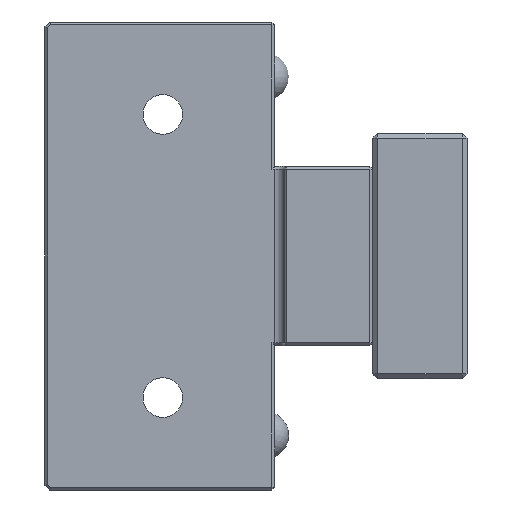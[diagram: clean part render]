
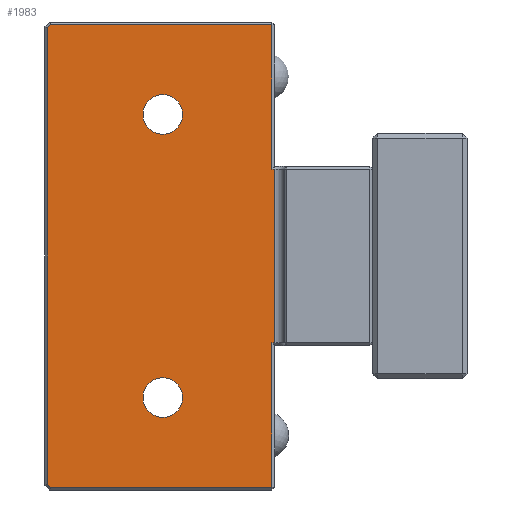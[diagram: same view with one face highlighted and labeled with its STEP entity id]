
A CAD part, left-side view. The second image highlights one B-rep face of the part: STEP entity #1983.
In plain terms, the highlighted planar face has unit normal (-1, 0, 0) as drawn and (0, 1, 0) by its records, which use the part's own axes.
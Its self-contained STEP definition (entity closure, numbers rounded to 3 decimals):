
#28 = VECTOR ( 'NONE', #1734, 1000. ) ;
#34 = ORIENTED_EDGE ( 'NONE', *, *, #377, .T. ) ;
#44 = LINE ( 'NONE', #1546, #2573 ) ;
#114 = VERTEX_POINT ( 'NONE', #2592 ) ;
#123 = ORIENTED_EDGE ( 'NONE', *, *, #1071, .T. ) ;
#148 = VECTOR ( 'NONE', #3538, 1000. ) ;
#208 = LINE ( 'NONE', #3621, #1959 ) ;
#233 = CARTESIAN_POINT ( 'NONE',  ( 0., -2., 0. ) ) ;
#255 = FACE_BOUND ( 'NONE', #2751, .T. ) ;
#320 = VERTEX_POINT ( 'NONE', #3352 ) ;
#334 = VECTOR ( 'NONE', #3240, 1000. ) ;
#377 = EDGE_CURVE ( 'NONE', #1212, #1759, #1754, .T. ) ;
#413 = CARTESIAN_POINT ( 'NONE',  ( -15., -2., 22.25 ) ) ;
#534 = CARTESIAN_POINT ( 'NONE',  ( -24.5, -2., 10.7 ) ) ;
#566 = VECTOR ( 'NONE', #1359, 1000. ) ;
#600 = ORIENTED_EDGE ( 'NONE', *, *, #2912, .T. ) ;
#605 = VERTEX_POINT ( 'NONE', #3894 ) ;
#638 = LINE ( 'NONE', #1554, #2066 ) ;
#687 = VERTEX_POINT ( 'NONE', #2841 ) ;
#700 = AXIS2_PLACEMENT_3D ( 'NONE', #1330, #1660, #3813 ) ;
#731 = ORIENTED_EDGE ( 'NONE', *, *, #3105, .T. ) ;
#746 = EDGE_CURVE ( 'NONE', #1104, #1104, #3135, .T. ) ;
#755 = DIRECTION ( 'NONE',  ( 0., 0., -1. ) ) ;
#799 = CARTESIAN_POINT ( 'NONE',  ( 0., -2., 10.7 ) ) ;
#902 = DIRECTION ( 'NONE',  ( 0., 0., -1. ) ) ;
#932 = DIRECTION ( 'NONE',  ( -1., 0., 0. ) ) ;
#1043 = AXIS2_PLACEMENT_3D ( 'NONE', #413, #3432, #1656 ) ;
#1070 = VERTEX_POINT ( 'NONE', #1293 ) ;
#1071 = EDGE_CURVE ( 'NONE', #2176, #1212, #44, .T. ) ;
#1104 = VERTEX_POINT ( 'NONE', #1146 ) ;
#1146 = CARTESIAN_POINT ( 'NONE',  ( -15., -2., 24.35 ) ) ;
#1184 = PLANE ( 'NONE',  #2834 ) ;
#1195 = ORIENTED_EDGE ( 'NONE', *, *, #3157, .T. ) ;
#1212 = VERTEX_POINT ( 'NONE', #3076 ) ;
#1260 = DIRECTION ( 'NONE',  ( -1., 0., 0. ) ) ;
#1274 = ORIENTED_EDGE ( 'NONE', *, *, #2606, .T. ) ;
#1293 = CARTESIAN_POINT ( 'NONE',  ( 24.176, -2., 34.45 ) ) ;
#1330 = CARTESIAN_POINT ( 'NONE',  ( 15., -2., 22.25 ) ) ;
#1359 = DIRECTION ( 'NONE',  ( 0.707, 0., -0.707 ) ) ;
#1502 = CARTESIAN_POINT ( 'NONE',  ( 9.19, -2., 10.7 ) ) ;
#1546 = CARTESIAN_POINT ( 'NONE',  ( -9.49, -2., 10.4 ) ) ;
#1554 = CARTESIAN_POINT ( 'NONE',  ( 0., -2., 10.7 ) ) ;
#1642 = VECTOR ( 'NONE', #2208, 1000. ) ;
#1656 = DIRECTION ( 'NONE',  ( 0., 0., 1. ) ) ;
#1659 = CARTESIAN_POINT ( 'NONE',  ( 24.3, -2., 34.45 ) ) ;
#1660 = DIRECTION ( 'NONE',  ( 0., 1., 0. ) ) ;
#1694 = CARTESIAN_POINT ( 'NONE',  ( -9.19, -2., 10.7 ) ) ;
#1734 = DIRECTION ( 'NONE',  ( 0., 0., 1. ) ) ;
#1735 = LINE ( 'NONE', #2870, #566 ) ;
#1754 = LINE ( 'NONE', #2021, #334 ) ;
#1759 = VERTEX_POINT ( 'NONE', #1694 ) ;
#1794 = ORIENTED_EDGE ( 'NONE', *, *, #746, .F. ) ;
#1823 = LINE ( 'NONE', #3093, #1642 ) ;
#1904 = CARTESIAN_POINT ( 'NONE',  ( -24.5, -2., 34.126 ) ) ;
#1959 = VECTOR ( 'NONE', #902, 1000. ) ;
#1983 = ADVANCED_FACE ( 'NONE', ( #3374, #2482, #255 ), #1184, .F. ) ;
#1986 = ORIENTED_EDGE ( 'NONE', *, *, #2233, .T. ) ;
#2021 = CARTESIAN_POINT ( 'NONE',  ( -9.19, -2., 0. ) ) ;
#2023 = LINE ( 'NONE', #3242, #28 ) ;
#2046 = VERTEX_POINT ( 'NONE', #1502 ) ;
#2066 = VECTOR ( 'NONE', #1260, 1000. ) ;
#2126 = ORIENTED_EDGE ( 'NONE', *, *, #3739, .F. ) ;
#2134 = ORIENTED_EDGE ( 'NONE', *, *, #2802, .T. ) ;
#2176 = VERTEX_POINT ( 'NONE', #3802 ) ;
#2208 = DIRECTION ( 'NONE',  ( 0.707, 0., 0.707 ) ) ;
#2233 = EDGE_CURVE ( 'NONE', #605, #114, #3479, .T. ) ;
#2240 = EDGE_LOOP ( 'NONE', ( #1794 ) ) ;
#2281 = EDGE_LOOP ( 'NONE', ( #123, #34, #1274, #3612, #600, #2134, #731, #1986, #3087, #1195 ) ) ;
#2295 = DIRECTION ( 'NONE',  ( 1., 0., 0. ) ) ;
#2330 = EDGE_CURVE ( 'NONE', #3256, #3668, #2023, .T. ) ;
#2394 = DIRECTION ( 'NONE',  ( 0., -1., 0. ) ) ;
#2482 = FACE_BOUND ( 'NONE', #2240, .T. ) ;
#2485 = EDGE_CURVE ( 'NONE', #114, #2046, #3822, .T. ) ;
#2533 = CARTESIAN_POINT ( 'NONE',  ( 24.5, -2., 10.4 ) ) ;
#2573 = VECTOR ( 'NONE', #932, 1000. ) ;
#2592 = CARTESIAN_POINT ( 'NONE',  ( 24.5, -2., 10.7 ) ) ;
#2606 = EDGE_CURVE ( 'NONE', #1759, #3256, #638, .T. ) ;
#2751 = EDGE_LOOP ( 'NONE', ( #2126 ) ) ;
#2802 = EDGE_CURVE ( 'NONE', #687, #1070, #2859, .T. ) ;
#2834 = AXIS2_PLACEMENT_3D ( 'NONE', #233, #2394, #3289 ) ;
#2841 = CARTESIAN_POINT ( 'NONE',  ( -24.176, -2., 34.45 ) ) ;
#2859 = LINE ( 'NONE', #1659, #3530 ) ;
#2870 = CARTESIAN_POINT ( 'NONE',  ( 24.588, -2., 34.038 ) ) ;
#2912 = EDGE_CURVE ( 'NONE', #3668, #687, #1823, .T. ) ;
#3076 = CARTESIAN_POINT ( 'NONE',  ( -9.19, -2., 10.4 ) ) ;
#3087 = ORIENTED_EDGE ( 'NONE', *, *, #2485, .T. ) ;
#3093 = CARTESIAN_POINT ( 'NONE',  ( -24.088, -2., 34.538 ) ) ;
#3105 = EDGE_CURVE ( 'NONE', #1070, #605, #1735, .T. ) ;
#3135 = CIRCLE ( 'NONE', #1043, 2.1 ) ;
#3157 = EDGE_CURVE ( 'NONE', #2046, #2176, #208, .T. ) ;
#3240 = DIRECTION ( 'NONE',  ( 0., 0., 1. ) ) ;
#3242 = CARTESIAN_POINT ( 'NONE',  ( -24.5, -2., 34.25 ) ) ;
#3256 = VERTEX_POINT ( 'NONE', #534 ) ;
#3289 = DIRECTION ( 'NONE',  ( 0., 0., -1. ) ) ;
#3352 = CARTESIAN_POINT ( 'NONE',  ( 15., -2., 24.35 ) ) ;
#3374 = FACE_OUTER_BOUND ( 'NONE', #2281, .T. ) ;
#3432 = DIRECTION ( 'NONE',  ( 0., 1., 0. ) ) ;
#3479 = LINE ( 'NONE', #2533, #3788 ) ;
#3530 = VECTOR ( 'NONE', #2295, 1000. ) ;
#3538 = DIRECTION ( 'NONE',  ( -1., 0., 0. ) ) ;
#3612 = ORIENTED_EDGE ( 'NONE', *, *, #2330, .T. ) ;
#3621 = CARTESIAN_POINT ( 'NONE',  ( 9.19, -2., 0. ) ) ;
#3668 = VERTEX_POINT ( 'NONE', #1904 ) ;
#3739 = EDGE_CURVE ( 'NONE', #320, #320, #3943, .T. ) ;
#3788 = VECTOR ( 'NONE', #755, 1000. ) ;
#3802 = CARTESIAN_POINT ( 'NONE',  ( 9.19, -2., 10.4 ) ) ;
#3813 = DIRECTION ( 'NONE',  ( 0., 0., 1. ) ) ;
#3822 = LINE ( 'NONE', #799, #148 ) ;
#3894 = CARTESIAN_POINT ( 'NONE',  ( 24.5, -2., 34.126 ) ) ;
#3943 = CIRCLE ( 'NONE', #700, 2.1 ) ;
